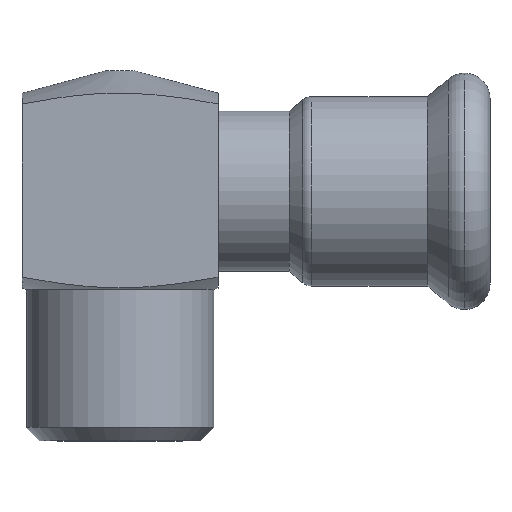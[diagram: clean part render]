
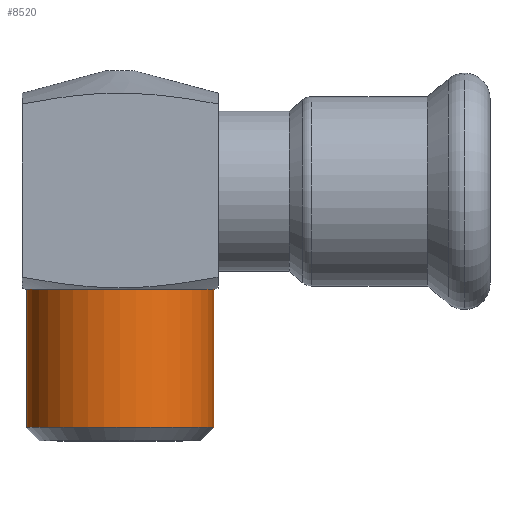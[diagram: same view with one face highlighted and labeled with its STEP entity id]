
A CAD part, top view. The second image highlights one B-rep face of the part: STEP entity #8520.
In plain terms, the highlighted cylindrical face has radius 10.5 mm (diameter 21 mm), a partial arc.
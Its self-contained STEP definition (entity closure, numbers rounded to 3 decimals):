
#6020=CARTESIAN_POINT('',(300.,-111.,0.));
#6030=DIRECTION('',(0.,1.,0.));
#6040=DIRECTION('',(1.,0.,0.));
#6050=AXIS2_PLACEMENT_3D('',#6020,#6030,#6040);
#6060=CIRCLE('',#6050,10.5);
#6070=CARTESIAN_POINT('',(289.5,-111.,0.));
#6080=VERTEX_POINT('',#6070);
#6090=CARTESIAN_POINT('',(310.5,-111.,0.));
#6100=VERTEX_POINT('',#6090);
#6110=EDGE_CURVE('',#6080,#6100,#6060,.T.);
#6330=CARTESIAN_POINT('',(300.,-119.5,0.));
#6340=DIRECTION('',(0.,1.,0.));
#6350=DIRECTION('',(1.,0.,0.));
#6360=AXIS2_PLACEMENT_3D('',#6330,#6340,#6350);
#6370=CYLINDRICAL_SURFACE('',#6360,10.5);
#6380=CARTESIAN_POINT('',(310.5,-119.5,0.));
#6390=DIRECTION('',(0.,1.,0.));
#6400=VECTOR('',#6390,1.);
#6410=LINE('',#6380,#6400);
#6420=CARTESIAN_POINT('',(310.5,-126.5,0.));
#6430=VERTEX_POINT('',#6420);
#6440=EDGE_CURVE('',#6430,#6100,#6410,.T.);
#6470=CARTESIAN_POINT('',(289.5,-119.5,0.));
#6480=DIRECTION('',(0.,1.,0.));
#6490=VECTOR('',#6480,1.);
#6500=LINE('',#6470,#6490);
#6510=CARTESIAN_POINT('',(289.5,-126.5,0.));
#6520=VERTEX_POINT('',#6510);
#6530=EDGE_CURVE('',#6520,#6080,#6500,.T.);
#6550=CARTESIAN_POINT('',(300.,-126.5,0.));
#6560=DIRECTION('',(0.,1.,0.));
#6570=DIRECTION('',(1.,0.,0.));
#6580=AXIS2_PLACEMENT_3D('',#6550,#6560,#6570);
#6590=CIRCLE('',#6580,10.5);
#7150=EDGE_CURVE('',#6520,#6430,#6590,.T.);
#8460=ORIENTED_EDGE('',*,*,#7150,.T.);
#8470=ORIENTED_EDGE('',*,*,#6530,.F.);
#8480=ORIENTED_EDGE('',*,*,#6110,.F.);
#8490=ORIENTED_EDGE('',*,*,#6440,.T.);
#8500=EDGE_LOOP('',(#8490,#8480,#8470,#8460));
#8510=FACE_OUTER_BOUND('',#8500,.T.);
#8520=ADVANCED_FACE('',(#8510),#6370,.T.);
